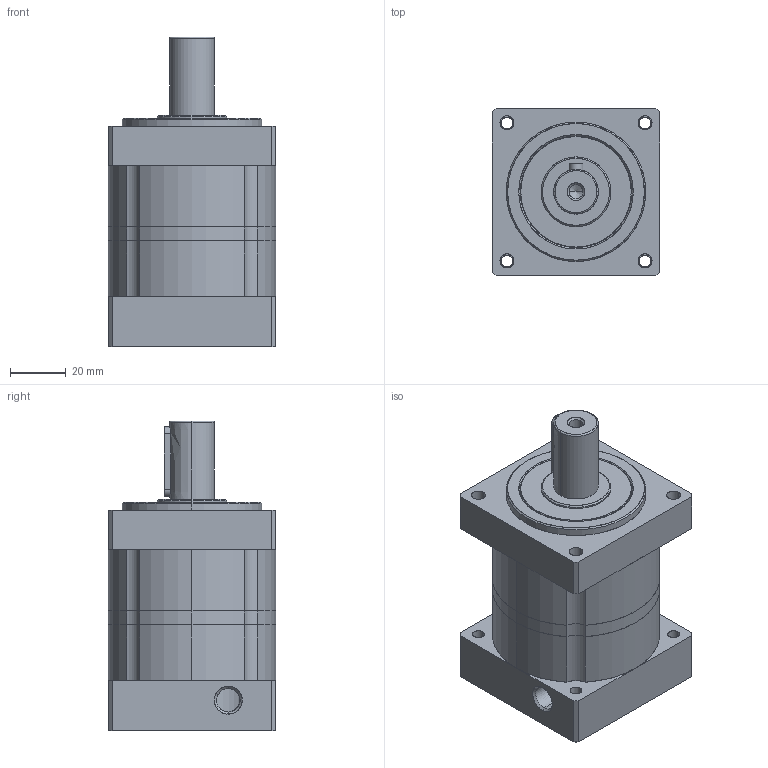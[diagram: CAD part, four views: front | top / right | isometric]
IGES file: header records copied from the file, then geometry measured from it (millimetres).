
Start section: SolidWorks IGES file using analytic representation for surfaces
Global section: file name: Z:\CAD Files\Gearboxes\S-Gearboxes\LX-060-005\LX-060-005-Rev1.IGS; native system: SolidWorks 2014; preprocessor: SolidWorks 2014; author: RENDER; date: 140626.115438; units: millimetre
Bounding box: 60 x 60 x 111 mm (x, y, z)
Surface area: 56026.8 mm2 (no closed solid volume)
Topology: 0 solids, 0 shells, 161 faces, 3258 edges, 3256 vertices
Faces by surface type: revolution 117, bspline 44
